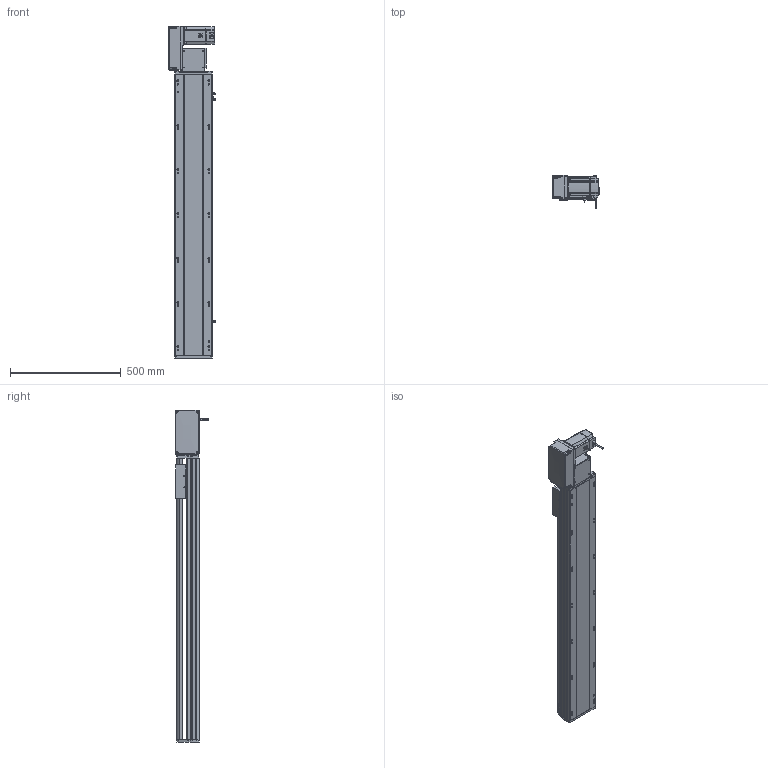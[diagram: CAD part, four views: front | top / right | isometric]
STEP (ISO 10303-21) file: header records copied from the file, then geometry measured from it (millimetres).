
FILE_DESCRIPTION (( 'STEP AP214' ), '1' );
FILE_NAME ('RTB17S-XX-1000-L-M75-C4.STEP', '2025-12-12T00:13:14', ( '' ), ( '' ), 'SwSTEP 2.0', 'SolidWorks 2018', '' );
FILE_SCHEMA (( 'AUTOMOTIVE_DESIGN' ));
Length unit declared in the file: millimetre
Products named in the file (15): RTB22S-GY-018P^RTB17S-L-々湍釱蚾饜-750W_RTB17S-XX-XX-L-M75-C4; RTB17S-L-々湍釱蚾饜-750W^RTB17S-XX-XX-L-M75-C4; RTB17S-XX-1000-L-M75-C4; EE672^RTB17S-XX-XX-L-M75-C4; 750W萇儂^RTB17S-XX-XX-L-M75-C4; RTB17-R-011菁釱^RTB17S-XX-XX-L-M75-C4; RTB17S-L-007奻裔^RTB17S-XX-XX-L-M75-C4; RTH13-BL-012覜茼え俋离^RTB17S-賑釱_RTB17S-XX-XX-L-M75-C4; RTB17S-L-001-耜醱啣^RTB17S-XX-XX-L-M75-C4; RTB22S-GY-005P^RTB17S-L-々湍釱蚾饜-750W_RTB17S-XX-XX-L-M75-C4; RTB22S-GY-008-M75--萇儂啣^RTB17S-L-々湍釱蚾饜-750W_RTB17S-XX-XX-L-M75-C4; RMP17S-L-014-T20-P75--々湍釱^RTB17S-L-々湍釱蚾饜-750W_RTB17S-XX-XX-L-M75-C4; RTB22S-GY-017P^RTB17S-L-々湍釱蚾饜-750W_RTB17S-XX-XX-L-M75-C4; RTB17S-賑釱^RTB17S-XX-XX-L-M75-C4; RTB17S-L-004-賑釱^RTB17S-賑釱_RTB17S-XX-XX-L-M75-C4
Assembly tree (17 placements, depth 3):
  RTB17S-XX-1000-L-M75-C4
    RTB17-R-011菁釱^RTB17S-XX-XX-L-M75-C4
    EE672^RTB17S-XX-XX-L-M75-C4  x3
    RTB17S-L-001-耜醱啣^RTB17S-XX-XX-L-M75-C4
    RTB17S-賑釱^RTB17S-XX-XX-L-M75-C4
      RTB17S-L-004-賑釱^RTB17S-賑釱_RTB17S-XX-XX-L-M75-C4
      RTH13-BL-012覜茼え俋离^RTB17S-賑釱_RTB17S-XX-XX-L-M75-C4
    RTB17S-L-007奻裔^RTB17S-XX-XX-L-M75-C4
    750W萇儂^RTB17S-XX-XX-L-M75-C4
    RTB17S-L-々湍釱蚾饜-750W^RTB17S-XX-XX-L-M75-C4
      RMP17S-L-014-T20-P75--々湍釱^RTB17S-L-々湍釱蚾饜-750W_RTB17S-XX-XX-L-M75-C4
      RTB22S-GY-005P^RTB17S-L-々湍釱蚾饜-750W_RTB17S-XX-XX-L-M75-C4
      RTB22S-GY-017P^RTB17S-L-々湍釱蚾饜-750W_RTB17S-XX-XX-L-M75-C4  x2
      RTB22S-GY-008-M75--萇儂啣^RTB17S-L-々湍釱蚾饜-750W_RTB17S-XX-XX-L-M75-C4
      RTB22S-GY-018P^RTB17S-L-々湍釱蚾饜-750W_RTB17S-XX-XX-L-M75-C4
Bounding box: 210.4 x 152.7 x 1499 mm (x, y, z)
Volume: 12203760.2 mm3; surface area: 2070019.7 mm2
Topology: 17 solids, 17 shells, 2089 faces, 5782 edges, 3734 vertices
Faces by surface type: plane 970, cylinder 703, bspline 294, cone 110, sphere 8, torus 4
Entity records: 58102 total; most frequent: CARTESIAN_POINT 17046, ORIENTED_EDGE 8408, DIRECTION 7862, EDGE_CURVE 4204, AXIS2_PLACEMENT_3D 2754, VERTEX_POINT 2738, VECTOR 2354, LINE 2354
